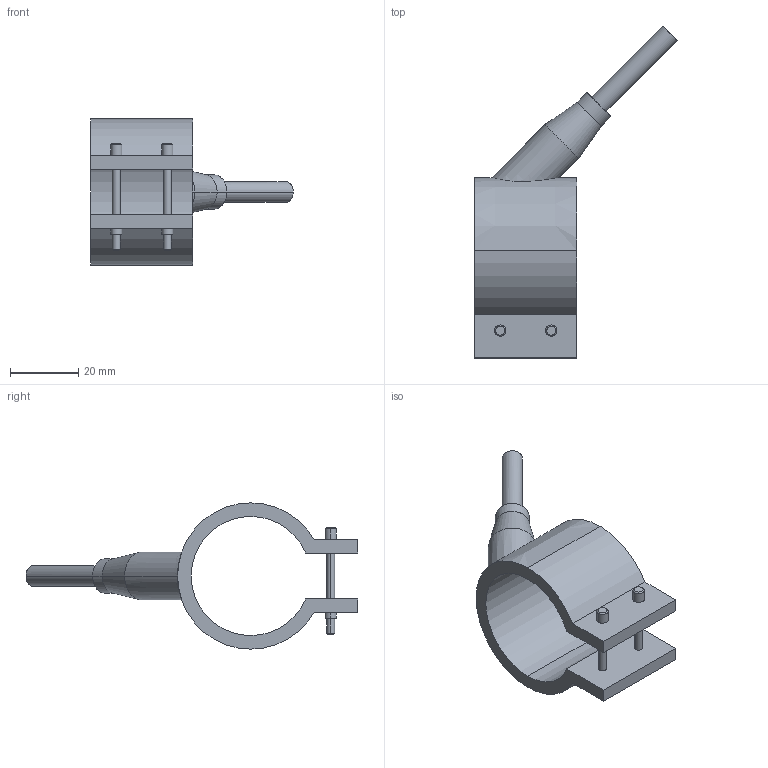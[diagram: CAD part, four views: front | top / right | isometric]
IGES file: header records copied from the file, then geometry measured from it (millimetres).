
Start section: START RECORD GO HERE.
Global section: file name: 29035030.igs; native system: DASSAULT SYSTEMES CATIA V5 R20 - www.3ds.com; preprocessor: CATIA Version 5 Release 20 ; author: Utente; organization: NB04-ASUS; date: 20210327.100414; units: millimetre
Bounding box: 59.55 x 97.55 x 43 mm (x, y, z)
Surface area: 11279.7 mm2 (no closed solid volume)
Topology: 0 solids, 0 shells, 54 faces, 246 edges, 246 vertices
Faces by surface type: revolution 38, plane 16
